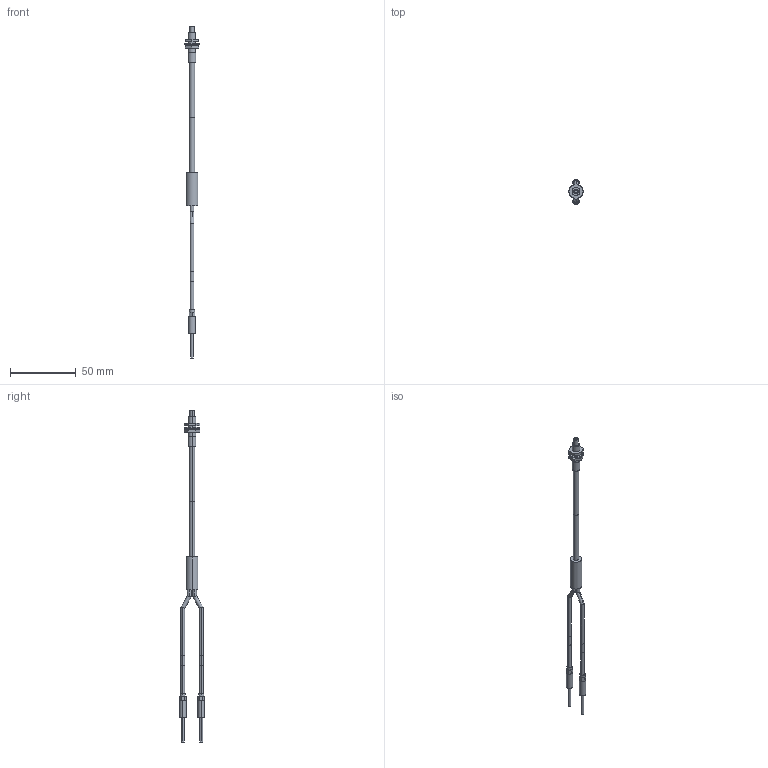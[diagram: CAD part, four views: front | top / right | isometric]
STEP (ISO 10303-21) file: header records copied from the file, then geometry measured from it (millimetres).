
FILE_DESCRIPTION (( 'STEP AP203' ), '1' );
FILE_NAME ('FD-H20-M1.STEP', '2005-09-09T05:21:32', ( ' ' ), ( ' ' ), 'SwSTEP 2.0', 'SolidWorks 2004073', '' );
FILE_SCHEMA (( 'CONFIG_CONTROL_DESIGN' ));
Length unit declared in the file: millimetre
Products named in the file (1): FD-H20-M1
Bounding box: 11 x 19 x 253 mm (x, y, z)
Volume: 5721.4 mm3; surface area: 5711.2 mm2
Topology: 9 solids, 9 shells, 116 faces, 237 edges, 150 vertices
Faces by surface type: plane 66, cylinder 50
Entity records: 3118 total; most frequent: CARTESIAN_POINT 552, DIRECTION 551, ORIENTED_EDGE 474, EDGE_CURVE 237, AXIS2_PLACEMENT_3D 213, VERTEX_POINT 150, EDGE_LOOP 133, VECTOR 125
